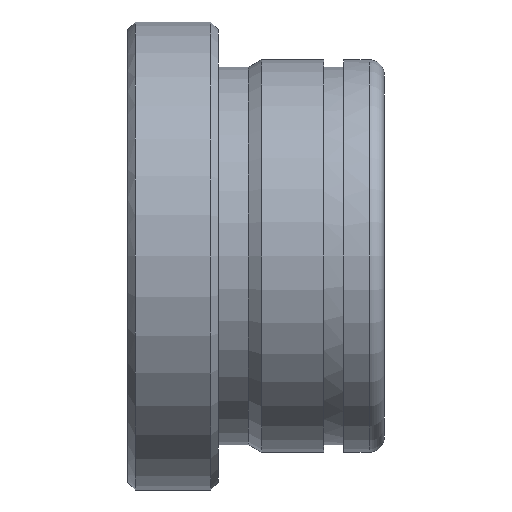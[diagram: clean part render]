
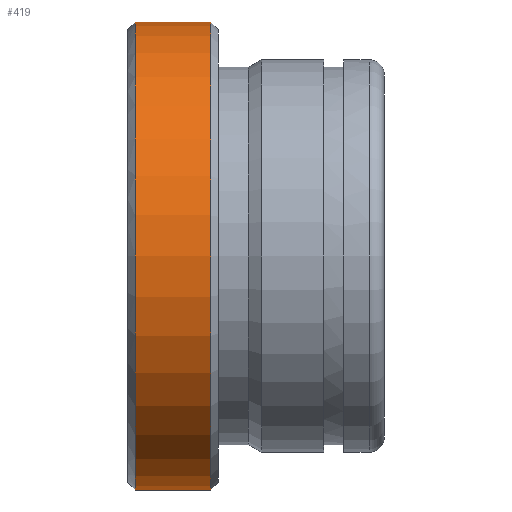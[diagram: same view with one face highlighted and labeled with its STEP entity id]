
A CAD part, front view. The second image highlights one B-rep face of the part: STEP entity #419.
In plain terms, the highlighted cylindrical face has radius 15.5 mm (diameter 31 mm), a partial arc.
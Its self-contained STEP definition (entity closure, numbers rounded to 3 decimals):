
#231=CARTESIAN_POINT('Vertex',(0.5,0.,-15.5)) ;
#238=CARTESIAN_POINT('Vertex',(0.5,0.,15.5)) ;
#267=CARTESIAN_POINT('Axis2P3D Location',(0.5,0.,0.)) ;
#271=CARTESIAN_POINT('Vertex',(0.5,-15.5,0.)) ;
#274=CARTESIAN_POINT('Axis2P3D Location',(0.5,0.,0.)) ;
#359=CARTESIAN_POINT('Line Origine',(34.,0.,15.5)) ;
#363=CARTESIAN_POINT('Vertex',(5.5,0.,15.5)) ;
#377=CARTESIAN_POINT('Vertex',(5.5,0.,-15.5)) ;
#380=CARTESIAN_POINT('Line Origine',(34.,0.,-15.5)) ;
#394=CARTESIAN_POINT('Axis2P3D Location',(34.,0.,0.)) ;
#399=CARTESIAN_POINT('Axis2P3D Location',(5.5,0.,0.)) ;
#403=CARTESIAN_POINT('Vertex',(5.5,-15.5,0.)) ;
#406=CARTESIAN_POINT('Axis2P3D Location',(5.5,0.,0.)) ;
#268=DIRECTION('Axis2P3D Direction',(1.,0.,-0.)) ;
#275=DIRECTION('Axis2P3D Direction',(1.,0.,-0.)) ;
#360=DIRECTION('Vector Direction',(-1.,0.,0.)) ;
#381=DIRECTION('Vector Direction',(-1.,0.,0.)) ;
#395=DIRECTION('Axis2P3D Direction',(-1.,-0.,-0.)) ;
#396=DIRECTION('Axis2P3D XDirection',(0.,0.,-1.)) ;
#400=DIRECTION('Axis2P3D Direction',(-1.,-0.,-0.)) ;
#407=DIRECTION('Axis2P3D Direction',(-1.,-0.,-0.)) ;
#269=AXIS2_PLACEMENT_3D('Circle Axis2P3D',#267,#268,$) ;
#276=AXIS2_PLACEMENT_3D('Circle Axis2P3D',#274,#275,$) ;
#397=AXIS2_PLACEMENT_3D('Cylinder Axis2P3D',#394,#395,#396) ;
#401=AXIS2_PLACEMENT_3D('Circle Axis2P3D',#399,#400,$) ;
#408=AXIS2_PLACEMENT_3D('Circle Axis2P3D',#406,#407,$) ;
#412=ORIENTED_EDGE('',*,*,#384,.T.) ;
#413=ORIENTED_EDGE('',*,*,#405,.F.) ;
#414=ORIENTED_EDGE('',*,*,#410,.F.) ;
#415=ORIENTED_EDGE('',*,*,#365,.T.) ;
#416=ORIENTED_EDGE('',*,*,#278,.T.) ;
#417=ORIENTED_EDGE('',*,*,#273,.T.) ;
#361=VECTOR('Line Direction',#360,1.) ;
#382=VECTOR('Line Direction',#381,1.) ;
#419=ADVANCED_FACE('553-18X17',(#418),#398,.T.) ;
#270=CIRCLE('generated circle',#269,15.5) ;
#277=CIRCLE('generated circle',#276,15.5) ;
#402=CIRCLE('generated circle',#401,15.5) ;
#409=CIRCLE('generated circle',#408,15.5) ;
#398=CYLINDRICAL_SURFACE('generated cylinder',#397,15.5) ;
#273=EDGE_CURVE('',#272,#232,#270,.T.) ;
#278=EDGE_CURVE('',#239,#272,#277,.T.) ;
#365=EDGE_CURVE('',#364,#239,#362,.T.) ;
#384=EDGE_CURVE('',#232,#378,#383,.F.) ;
#405=EDGE_CURVE('',#404,#378,#402,.F.) ;
#410=EDGE_CURVE('',#364,#404,#409,.F.) ;
#411=EDGE_LOOP('',(#412,#413,#414,#415,#416,#417)) ;
#418=FACE_OUTER_BOUND('',#411,.T.) ;
#362=LINE('Line',#359,#361) ;
#383=LINE('Line',#380,#382) ;
#232=VERTEX_POINT('',#231) ;
#239=VERTEX_POINT('',#238) ;
#272=VERTEX_POINT('',#271) ;
#364=VERTEX_POINT('',#363) ;
#378=VERTEX_POINT('',#377) ;
#404=VERTEX_POINT('',#403) ;
